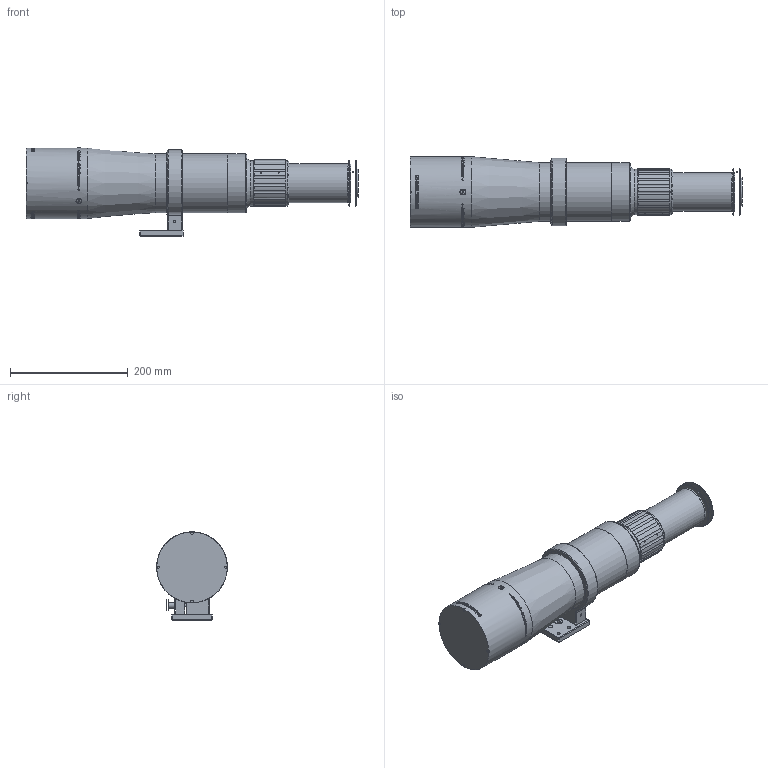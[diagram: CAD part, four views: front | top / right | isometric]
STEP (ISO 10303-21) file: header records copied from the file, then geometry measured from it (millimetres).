
FILE_DESCRIPTION((''),'2;1');
FILE_NAME('\\10.0.0.209\Doc Produ\Meccaniche\STP\A_2009\C0912\C0912_000\C0912_010.stp','2014-04-28T12:16:46',('mcilia'),(''),'Autodesk Inventor 2010','Autodesk Inventor 2010','');
FILE_SCHEMA(('AUTOMOTIVE_DESIGN { 1 0 10303 214 1 1 1 1 }'));
Length unit declared in the file: millimetre
Products named in the file (2): C0912_010_000 (Livello di dettaglio sostituto1); C0912_010
Assembly tree (1 placements, depth 2):
  C0912_010_000 (Livello di dettaglio sostituto1)
    C0912_010
Bounding box: 564.6 x 120 x 150.51 mm (x, y, z)
Surface area: 281117.3 mm2 (no closed solid volume)
Topology: 0 solids, 52 shells, 192 faces, 3170 edges, 3015 vertices
Faces by surface type: cylinder 70, cone 45, plane 44, bspline 33
Full cylindrical faces by diameter (mm): 1.567 x1, 4.978 x1, 5 x1, 7.798 x1, 10 x1, 48 x1, 65.5 x1, 65.9 x1, 77.5 x2, 99.965 x1, 100 x2, 120 x1
Entity records: 111976 total; most frequent: CARTESIAN_POINT 94594, ORIENTED_EDGE 3338, EDGE_CURVE 3107, VERTEX_POINT 2998, DIRECTION 2405, B_SPLINE_CURVE_WITH_KNOTS 1202, AXIS2_PLACEMENT_3D 1082, CIRCLE 920
